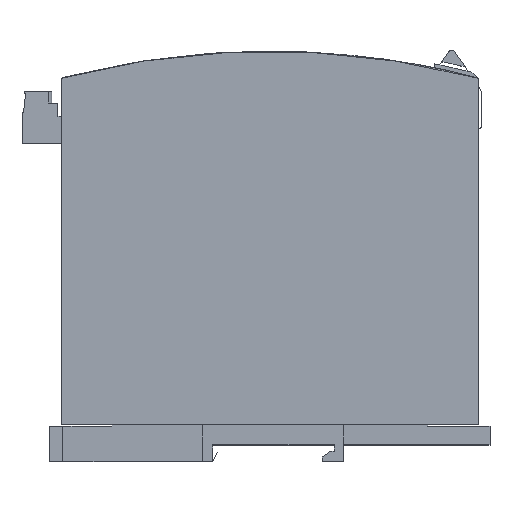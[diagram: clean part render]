
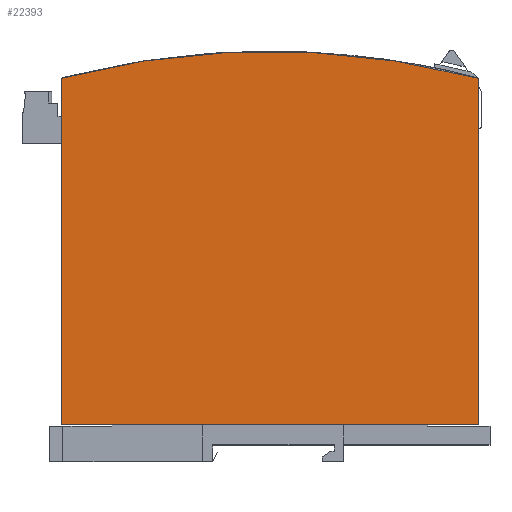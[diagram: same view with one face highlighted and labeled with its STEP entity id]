
A CAD part, top view. The second image highlights one B-rep face of the part: STEP entity #22393.
In plain terms, the highlighted planar face has unit normal (0, 0, 1).
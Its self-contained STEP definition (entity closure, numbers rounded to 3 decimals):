
#55=DIRECTION('',(1.,0.,0.));
#56=VECTOR('',#55,124.);
#57=CARTESIAN_POINT('',(0.,-111.,49.));
#58=LINE('',#57,#56);
#59=DIRECTION('',(0.,-1.,0.));
#60=VECTOR('',#59,103.);
#61=CARTESIAN_POINT('',(0.,-8.,49.));
#62=LINE('',#61,#60);
#63=CARTESIAN_POINT('',(62.,-244.25,49.));
#64=DIRECTION('',(0.,0.,1.));
#65=DIRECTION('',(0.254,0.967,0.));
#66=AXIS2_PLACEMENT_3D('',#63,#64,#65);
#68=DIRECTION('',(0.,1.,0.));
#69=VECTOR('',#68,103.);
#70=CARTESIAN_POINT('',(124.,-111.,49.));
#71=LINE('',#70,#69);
#15380=CARTESIAN_POINT('',(124.,-8.,49.));
#15381=CARTESIAN_POINT('',(0.,-8.,49.));
#15382=VERTEX_POINT('',#15380);
#15383=VERTEX_POINT('',#15381);
#15388=CARTESIAN_POINT('',(0.,-111.,49.));
#15389=CARTESIAN_POINT('',(124.,-111.,49.));
#15390=VERTEX_POINT('',#15388);
#15391=VERTEX_POINT('',#15389);
#22378=CARTESIAN_POINT('',(0.,0.,49.));
#22379=DIRECTION('',(0.,0.,1.));
#22380=DIRECTION('',(1.,0.,0.));
#22381=AXIS2_PLACEMENT_3D('',#22378,#22379,#22380);
#22382=PLANE('',#22381);
#22384=ORIENTED_EDGE('',*,*,#22383,.F.);
#22386=ORIENTED_EDGE('',*,*,#22385,.F.);
#22388=ORIENTED_EDGE('',*,*,#22387,.F.);
#22390=ORIENTED_EDGE('',*,*,#22389,.F.);
#22391=EDGE_LOOP('',(#22384,#22386,#22388,#22390));
#22392=FACE_OUTER_BOUND('',#22391,.F.);
#22393=ADVANCED_FACE('',(#22392),#22382,.T.);
#67=CIRCLE('',#66,244.25);
#22383=EDGE_CURVE('',#15390,#15391,#58,.T.);
#22385=EDGE_CURVE('',#15383,#15390,#62,.T.);
#22387=EDGE_CURVE('',#15382,#15383,#67,.T.);
#22389=EDGE_CURVE('',#15391,#15382,#71,.T.);
